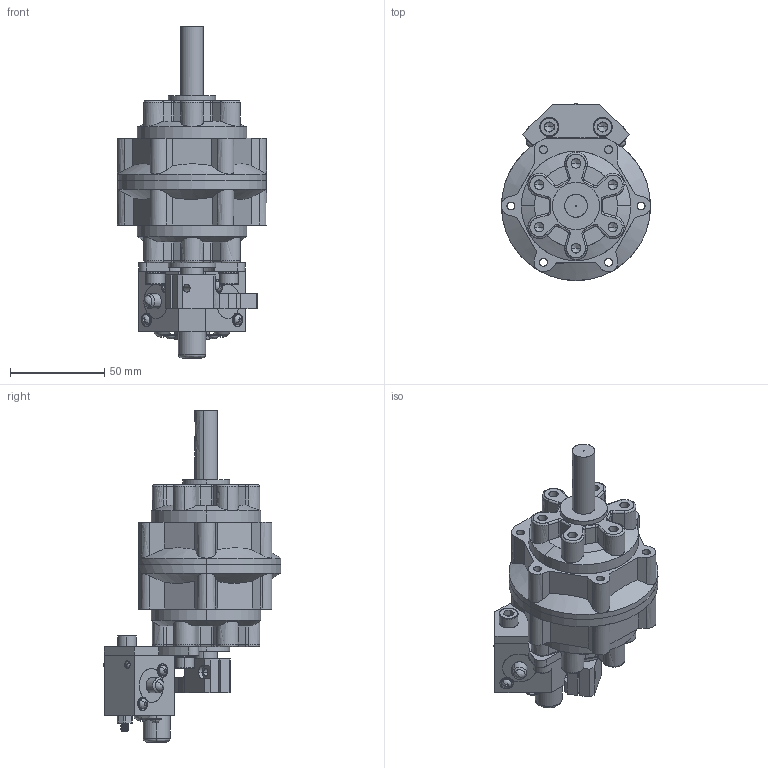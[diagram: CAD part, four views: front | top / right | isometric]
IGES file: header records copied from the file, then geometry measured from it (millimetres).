
Start section: SolidWorks IGES file using analytic representation for surfaces
Global section: file name: C:\Users\Chieh_Lu\Dropbox\¤u§@«Ç\PRN50-150-300-800\PRN50\PRN50\PRN50#-#-#-#-CR.IGS; native system: SolidWorks 2014; preprocessor: SolidWorks 2014; author: Chieh_Lu; date: 160115.004047; units: millimetre
Bounding box: 79 x 94 x 176 mm (x, y, z)
Surface area: 84034.8 mm2 (no closed solid volume)
Topology: 0 solids, 0 shells, 957 faces, 12026 edges, 11981 vertices
Faces by surface type: bspline 503, revolution 454
